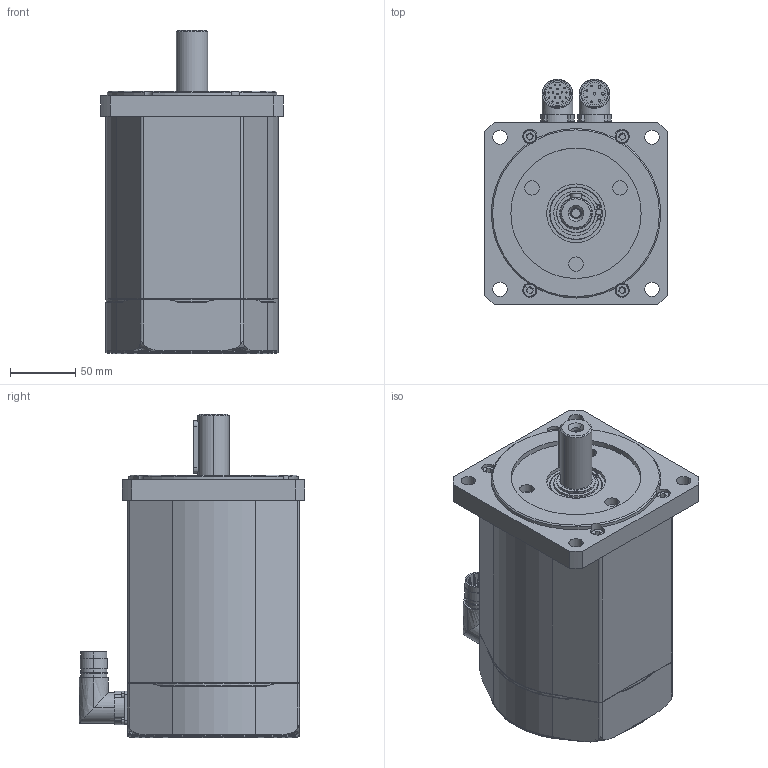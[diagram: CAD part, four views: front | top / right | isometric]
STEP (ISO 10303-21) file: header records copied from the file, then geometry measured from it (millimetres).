
FILE_DESCRIPTION (( 'STEP AP203' ), '1' );
FILE_NAME ('SSAX140XS_SF.STEP', '2015-09-10T13:09:45', ( 'Tecnico motori' ), ( '' ), 'SwSTEP 2.0', 'SolidWorks 2010', '' );
FILE_SCHEMA (( 'CONFIG_CONTROL_DESIGN' ));
Length unit declared in the file: millimetre
Products named in the file (1): SSAX140XS_SF
Bounding box: 140 x 173 x 247.85 mm (x, y, z)
Surface area: 163667.2 mm2 (no closed solid volume)
Topology: 0 solids, 32 shells, 454 faces, 1261 edges, 871 vertices
Faces by surface type: cylinder 211, plane 186, cone 27, torus 24, bspline 6
Entity records: 15716 total; most frequent: CARTESIAN_POINT 3661, DIRECTION 2701, ORIENTED_EDGE 2195, EDGE_CURVE 1261, AXIS2_PLACEMENT_3D 1061, VERTEX_POINT 871, CIRCLE 612, VECTOR 579
